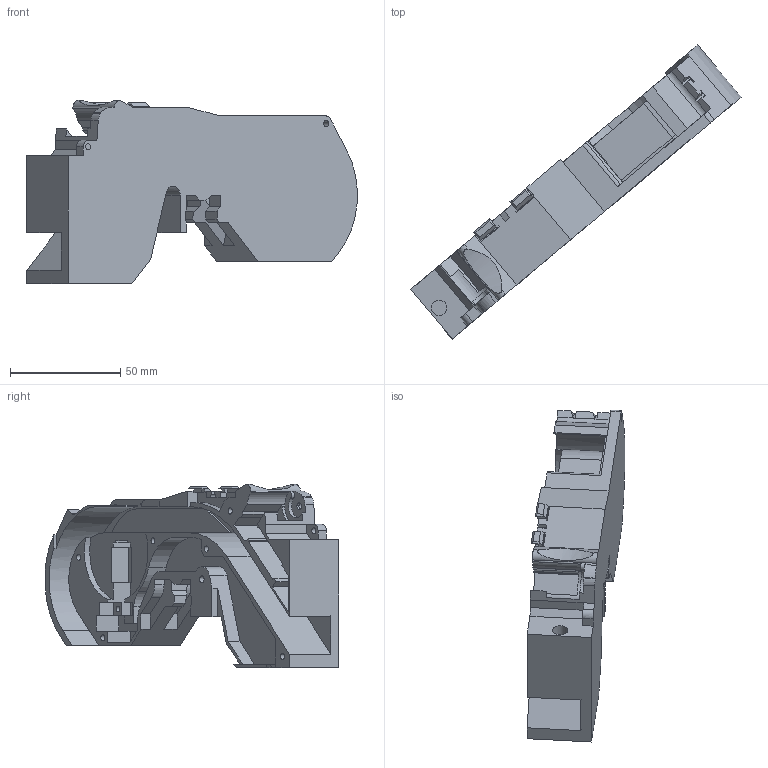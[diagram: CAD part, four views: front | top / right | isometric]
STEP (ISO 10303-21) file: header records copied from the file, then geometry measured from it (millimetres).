
FILE_DESCRIPTION(('FreeCAD Model'),'2;1');
FILE_NAME('Open CASCADE Shape Model','2026-07-02T18:46:52',('FreeCAD'),( 'FreeCAD'),'Open CASCADE STEP processor 7.8','FreeCAD','Unknown');
FILE_SCHEMA(('AUTOMOTIVE_DESIGN { 1 0 10303 214 1 1 1 1 }'));
Length unit declared in the file: millimetre
Products named in the file (1): Open CASCADE STEP translator 7.8 5
Bounding box: 149.85 x 133.31 x 83 mm (x, y, z)
Volume: 172129.1 mm3; surface area: 55376.9 mm2
Topology: 1 solids, 1 shells, 329 faces, 905 edges, 590 vertices
Faces by surface type: plane 263, cylinder 63, cone 2, bspline 1
Full cylindrical faces by diameter (mm): 2.5 x2, 2.75 x1, 2.8 x5, 2.9 x3, 3.2 x1, 3.5 x1, 7 x2
Entity records: 10649 total; most frequent: CARTESIAN_POINT 2146, ORIENTED_EDGE 1810, DIRECTION 1704, EDGE_CURVE 905, LINE 752, VECTOR 752, VERTEX_POINT 590, AXIS2_PLACEMENT_3D 476
